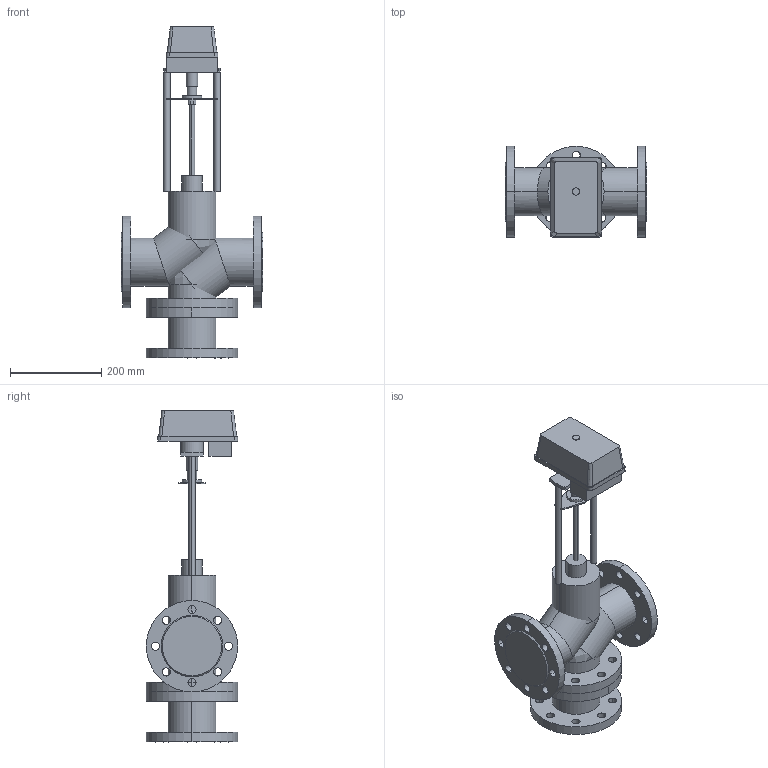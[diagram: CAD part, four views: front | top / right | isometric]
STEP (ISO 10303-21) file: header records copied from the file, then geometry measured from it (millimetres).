
FILE_DESCRIPTION(/* description */ (''),/* implementation_level */ '2;1');
FILE_NAME(/* name */ 'ТРК DN80 PN 2.5 МПа МИЭП-1 4000',/* time_stamp */ '2026-07-14T23:30:20+03:00',/* author */ (''),/* organization */ (''),/* preprocessor_version */ 'ST-DEVELOPER v20',/* originating_system */ '',/* authorisation */ '');
FILE_SCHEMA (('AP242_MANAGED_MODEL_BASED_3D_ENGINEERING_MIM_LF { 1 0 10303 442 1 1 4 }'));
Length unit declared in the file: millimetre
Products named in the file (16): TopLevelAssembly; Выдавливание; Модификатор; Модификатор_1; Выдавливание_
1; Выдавливание_
2; Вращение; Выдавливание_
3; Выдавливание_
4; Выдавливание_
5; Выдавливание_
6; Выдавливание_
7; 4000; Переход; Объемная геометрия 
присоединена; Объемная геометрия 
присоединена_1
Assembly tree (15 placements, depth 2):
  TopLevelAssembly
    Выдавливание
    Модификатор
    Модификатор_1
    Выдавливание_
1
    Выдавливание_
2
    Вращение
    Выдавливание_
3
    Выдавливание_
4
    Выдавливание_
5
    Выдавливание_
6
    Выдавливание_
7
    4000
    Переход
    Объемная геометрия 
присоединена
    Объемная геометрия 
присоединена_1
Bounding box: 310 x 200 x 727 mm (x, y, z)
Volume: 9692388.1 mm3; surface area: 940359.3 mm2
Topology: 25 solids, 25 shells, 245 faces, 564 edges, 364 vertices
Faces by surface type: cylinder 144, plane 89, bspline 8, cone 4
Entity records: 7911 total; most frequent: DIRECTION 1403, CARTESIAN_POINT 1384, ORIENTED_EDGE 1112, AXIS2_PLACEMENT_3D 579, EDGE_CURVE 556, VERTEX_POINT 364, EDGE_LOOP 336, CIRCLE 303
